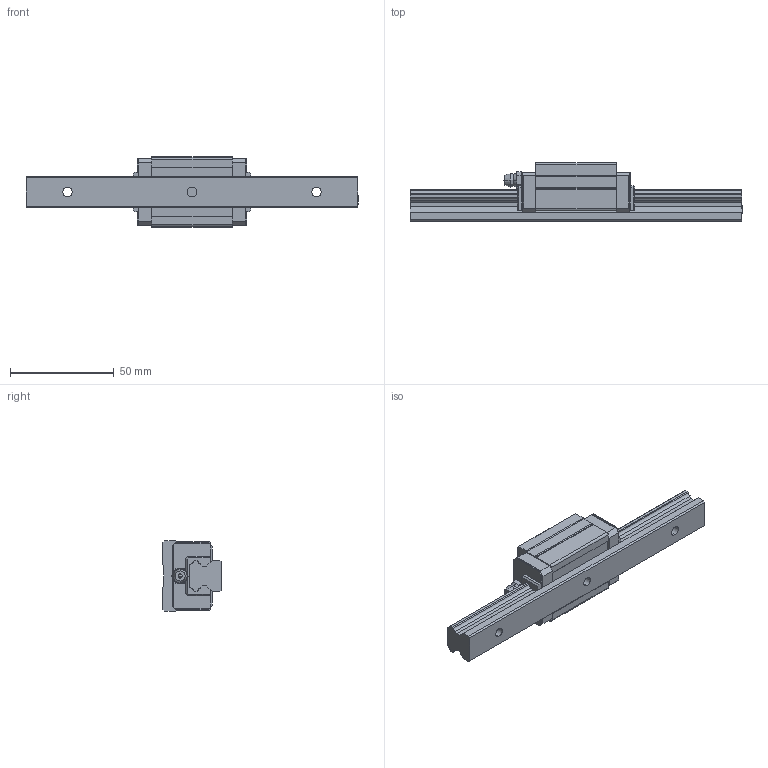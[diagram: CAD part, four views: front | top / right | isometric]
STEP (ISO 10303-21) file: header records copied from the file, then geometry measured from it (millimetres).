
FILE_DESCRIPTION (( 'STEP AP203' ), '1' );
FILE_NAME ('HSV15RSS.STEP', '2016-03-14T13:41:57', ( 'EOS' ), ( '' ), 'SwSTEP 2.0', 'SolidWorks 2016', '' );
FILE_SCHEMA (( 'CONFIG_CONTROL_DESIGN' ));
Length unit declared in the file: millimetre
Products named in the file (4): 1; 3; HSV15R; HSV15RSS
Assembly tree (3 placements, depth 2):
  HSV15RSS
    1
    HSV15R
    3
Bounding box: 160 x 28 x 34 mm (x, y, z)
Volume: 61719.9 mm3; surface area: 20318.5 mm2
Topology: 3 solids, 3 shells, 227 faces, 607 edges, 387 vertices
Faces by surface type: plane 153, cylinder 40, cone 28, bspline 6
Entity records: 7447 total; most frequent: CARTESIAN_POINT 1407, ORIENTED_EDGE 1194, DIRECTION 1135, EDGE_CURVE 597, VECTOR 449, LINE 449, VERTEX_POINT 387, AXIS2_PLACEMENT_3D 343
